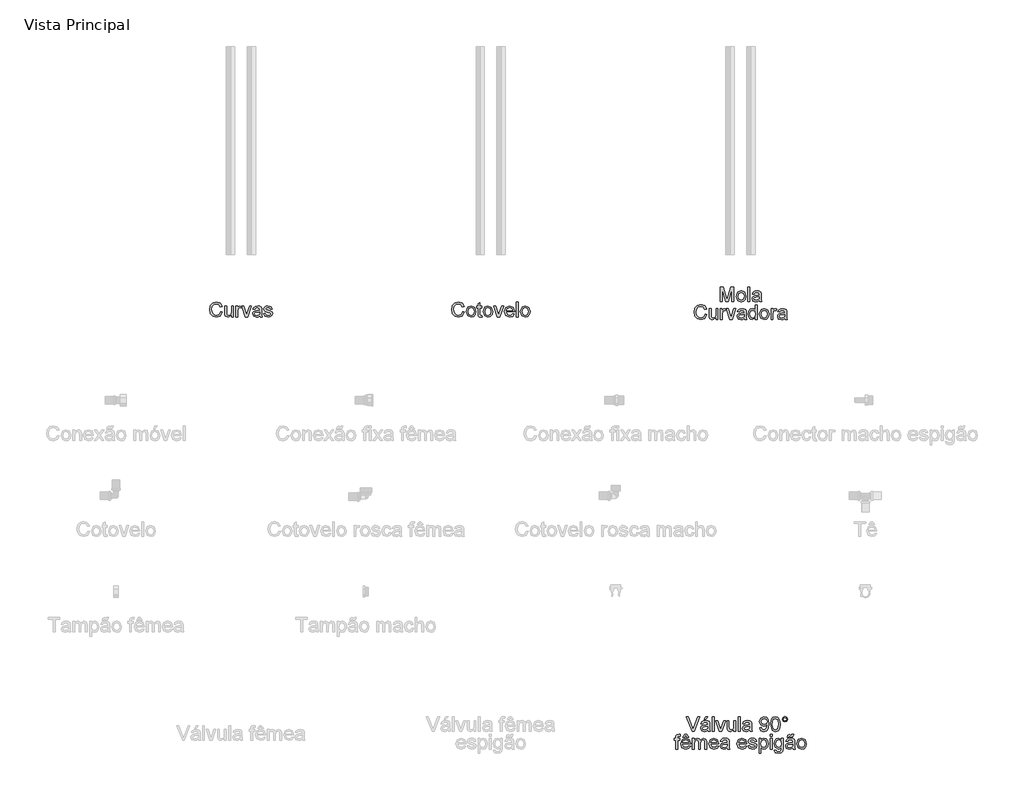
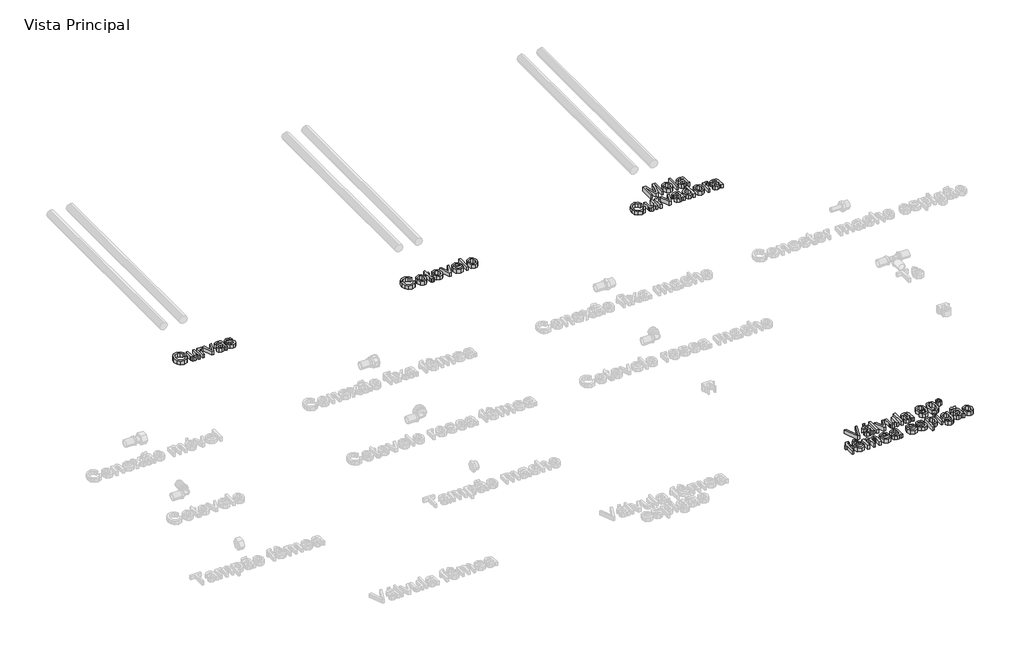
# One storey, part 5 of 5: 4 proxies.
"""IFC4 building model written with IfcOpenShell, lengths in millimetres."""

from ifc_helpers import new_model, si_unit, origin, origin_with_axes, place, context, project, spatial, polyline, outline, extrude, element, save

model = new_model("IFC4")

# Units and contexts
model_context = context("Model", 3, world=origin())
ifc_project = project(units=[si_unit("LENGTHUNIT", "METRE", prefix="MILLI")], contexts=[model_context])

# Site, building, storey
site = spatial("IfcSite", under=ifc_project)
building = spatial("IfcBuilding", under=site)
storey = spatial("IfcBuildingStorey", under=building, Name="Vista Principal", Elevation=0.0)

# Proxies
placement = place(None, origin())
element("IfcBuildingElementProxy", 1, Name="Título", ObjectType="Título", at=placement, inside=storey, context=model_context, shape_type="SweptSolid", body=[
    extrude(outline(polyline([(-840.5420215, 176.5290099), (-836.147058, 175.3959334), (-841.3574933, 166.533043), (-850.5594483, 163.4814618), (-859.7056078, 165.7905345), (-865.0705536, 172.4774029), (-866.911803, 181.8767878), (-864.830204, 191.4306832), (-858.9115958, 197.6239766), (-850.4650252, 199.7399112), (-841.6622222, 197.0016429), (-836.6964284, 189.2932889), (-841.091392, 188.2460514), (-844.6966355, 193.6496248), (-850.6367035, 195.3449477), (-857.512418, 193.4650707), (-861.3966387, 188.4177297), (-862.5168394, 181.8853717), (-861.1906248, 174.3143603), (-857.0617625, 169.4773252), (-850.9972279, 167.8764254), (-844.2717318, 170.0567393), (-840.5420215, 176.5290099)])), origin_with_axes(), (0.0, 0.0, 1.0), 10.0),
    extrude(outline(polyline([(-814.1722401, 164.0308322), (-814.1722401, 168.4687154), (-822.1037759, 163.4814618), (-826.2369302, 164.3570209), (-829.0867894, 166.5545027), (-830.3958361, 169.790638), (-830.6533535, 173.8765807), (-830.6533535, 189.8512432), (-826.2583899, 189.8512432), (-826.2583899, 175.9453038), (-825.9922886, 171.4645011), (-824.2540462, 168.8335317), (-820.9792833, 167.8764254), (-817.3096604, 168.8549915), (-814.8847049, 171.5202965), (-814.1722401, 176.417419), (-814.1722401, 189.8512432), (-809.7772766, 189.8512432), (-809.7772766, 164.0308322), (-814.1722401, 164.0308322)])), origin_with_axes(), (0.0, 0.0, 1.0), 10.0),
    extrude(outline(polyline([(-803.7342017, 164.0308322), (-803.7342017, 189.8512432), (-799.8886085, 189.8512432), (-799.8886085, 186.0314018), (-797.1589241, 189.5508063), (-794.4120719, 190.4006137), (-789.9999405, 189.0443554), (-791.4677897, 185.1043392), (-794.5579984, 186.0056501), (-797.0430413, 185.1386749), (-798.6267733, 182.7351792), (-799.3392381, 177.601999), (-799.3392381, 164.0308322), (-803.7342017, 164.0308322)])), origin_with_axes(), (0.0, 0.0, 1.0), 10.0),
    extrude(outline(polyline([(-780.9181603, 164.0308322), (-789.9999405, 189.8512432), (-785.3474595, 189.8512432), (-779.8451712, 174.3830316), (-778.1884759, 169.1811802), (-776.5661163, 174.0911785), (-771.0294923, 189.8512432), (-766.3770113, 189.8512432), (-775.3472006, 164.0308322), (-780.9181603, 164.0308322)])), origin_with_axes(), (0.0, 0.0, 1.0), 10.0),
    extrude(outline(polyline([(-746.0503048, 167.3270549), (-750.3122177, 164.348437), (-755.0204941, 163.4814618), (-761.4026336, 165.5673527), (-763.6301591, 170.8979628), (-762.7889356, 174.3744477), (-760.5785779, 176.8981182), (-757.501245, 178.3402156), (-753.6985715, 179.0011769), (-746.0760566, 180.5119456), (-747.2606366, 184.7352309), (-752.1191315, 186.0056501), (-756.5655985, 185.1601346), (-758.6858251, 182.160057), (-763.0807886, 182.7094274), (-761.1794519, 187.001384), (-757.3510266, 189.5164706), (-751.5525932, 190.4006137), (-746.226275, 189.6194776), (-743.2176135, 187.6580534), (-741.8699391, 184.6751435), (-741.6553412, 180.8295504), (-741.6553412, 175.3615977), (-741.4321595, 167.7262069), (-740.5566004, 164.0308322), (-744.9515639, 164.0308322), (-746.0503048, 167.3270549)]), holes=[polyline([(-746.0631807, 175.4946484), (-753.1406171, 174.7693077), (-756.9218309, 174.0568429), (-758.6343216, 172.8980146), (-759.2351955, 171.2069837), (-757.9261488, 168.8292397), (-754.0848476, 167.8764254), (-749.6383805, 168.9279547), (-746.7713535, 171.473085), (-746.0631807, 175.4946484)])]), origin_with_axes(), (0.0, 0.0, 1.0), 10.0),
    extrude(outline(polyline([(-737.2603777, 171.7220185), (-732.8654141, 172.2713889), (-730.8310267, 169.0095019), (-726.1699618, 167.8764254), (-721.6891591, 168.9150789), (-720.2298938, 171.3529102), (-721.697743, 173.3272103), (-726.2214653, 174.5804616), (-732.8396624, 176.7307319), (-735.7281492, 179.2415265), (-736.7110072, 182.7866826), (-735.9212872, 186.0614455), (-733.766725, 188.5636562), (-730.9726612, 189.8641191), (-727.1914475, 190.4006137), (-721.8436695, 189.5379304), (-718.4444399, 187.203106), (-716.9336712, 183.2587979), (-721.3286347, 182.7094274), (-722.981038, 185.1343829), (-726.8480909, 186.0056501), (-731.0542084, 185.1730105), (-732.3160437, 183.2330461), (-730.1528975, 180.9840609), (-726.3673918, 180.0484143), (-719.916581, 177.9796912), (-716.9207953, 175.6362829), (-715.8349303, 171.8164415), (-717.1096414, 167.6103241), (-720.7878482, 164.5587429), (-726.2300492, 163.4814618), (-733.8954837, 165.5587688), (-737.2603777, 171.7220185)])), origin_with_axes(), (0.0, 0.0, 1.0), 10.0),
])
element("IfcBuildingElementProxy", 2, Name="Título", ObjectType="Título", at=placement, inside=storey, context=model_context, shape_type="SweptSolid", body=[
    extrude(outline(polyline([(-259.2206167, 176.5290099), (-254.8256531, 175.3959334), (-260.0360885, 166.533043), (-269.2380434, 163.4814618), (-278.384203, 165.7905345), (-283.7491487, 172.4774029), (-285.5903981, 181.8767878), (-283.5087992, 191.4306832), (-277.590191, 197.6239766), (-269.1436204, 199.7399112), (-260.3408174, 197.0016429), (-255.3750236, 189.2932889), (-259.7699872, 188.2460514), (-263.3752307, 193.6496248), (-269.3152987, 195.3449477), (-276.1910132, 193.4650707), (-280.0752339, 188.4177297), (-281.1954346, 181.8853717), (-279.86922, 174.3143603), (-275.7403577, 169.4773252), (-269.675823, 167.8764254), (-262.950327, 170.0567393), (-259.2206167, 176.5290099)])), origin_with_axes(), (0.0, 0.0, 1.0), 10.0),
    extrude(outline(polyline([(-250.4306896, 176.9410377), (-246.628016, 187.5421706), (-238.8853263, 190.4006137), (-230.5803903, 186.9198368), (-227.3571308, 177.3015621), (-228.7820604, 169.4816171), (-232.9323825, 165.0566099), (-238.8853263, 163.4814618), (-247.2417658, 166.9493627), (-250.4306896, 176.9410377)]), holes=[polyline([(-246.035726, 176.9496216), (-244.0013386, 170.1382865), (-238.8853263, 167.8764254), (-233.7864818, 170.1511624), (-231.7520944, 177.0869643), (-233.7993577, 183.743789), (-238.8853263, 186.0056501), (-244.0013386, 183.7523729), (-246.035726, 176.9496216)])]), origin_with_axes(), (0.0, 0.0, 1.0), 10.0),
    extrude(outline(polyline([(-213.0734992, 167.6961632), (-212.5241288, 163.9020735), (-215.8117676, 163.4814618), (-219.4942663, 164.2110944), (-221.3312238, 166.1253071), (-221.8634264, 171.1125607), (-221.8634264, 185.4562796), (-225.1596491, 185.4562796), (-225.1596491, 189.8512432), (-221.8634264, 189.8512432), (-221.8634264, 196.1260838), (-217.4684628, 198.7098417), (-217.4684628, 189.8512432), (-213.0734992, 189.8512432), (-213.0734992, 185.4562796), (-217.4684628, 185.4562796), (-217.4684628, 171.2413194), (-217.2366972, 168.9751663), (-213.0734992, 167.6961632)])), origin_with_axes(), (0.0, 0.0, 1.0), 10.0),
    extrude(outline(polyline([(-209.7772766, 176.9410377), (-205.974603, 187.5421706), (-198.2319133, 190.4006137), (-189.9269772, 186.9198368), (-186.7037178, 177.3015621), (-188.1286474, 169.4816171), (-192.2789695, 165.0566099), (-198.2319133, 163.4814618), (-206.5883528, 166.9493627), (-209.7772766, 176.9410377)]), holes=[polyline([(-205.382313, 176.9496216), (-203.3479256, 170.1382865), (-198.2319133, 167.8764254), (-193.1330688, 170.1511624), (-191.0986814, 177.0869643), (-193.1459447, 183.743789), (-198.2319133, 186.0056501), (-203.3479256, 183.7523729), (-205.382313, 176.9496216)])]), origin_with_axes(), (0.0, 0.0, 1.0), 10.0),
    extrude(outline(polyline([(-175.4244559, 164.0308322), (-184.506236, 189.8512432), (-179.8537551, 189.8512432), (-174.3514667, 174.3830316), (-172.6947715, 169.1811802), (-171.0724119, 174.0911785), (-165.5357878, 189.8512432), (-160.8833069, 189.8512432), (-169.8534962, 164.0308322), (-175.4244559, 164.0308322)])), origin_with_axes(), (0.0, 0.0, 1.0), 10.0),
    extrude(outline(polyline([(-138.9599925, 171.7220185), (-134.6508681, 171.172648), (-138.6810153, 165.4986814), (-146.1876474, 163.4814618), (-155.3123472, 166.9622386), (-158.6858251, 176.7264399), (-155.2780115, 186.8125379), (-146.4365809, 190.4006137), (-137.8483757, 186.8211218), (-134.5135254, 176.7521916), (-154.2908615, 175.5676116), (-151.7628991, 169.8593093), (-146.1018083, 167.8764254), (-141.7926839, 168.7949041), (-138.9599925, 171.7220185)]), holes=[polyline([(-154.2908615, 179.9625752), (-138.908489, 179.9625752), (-140.6681912, 183.9455109), (-146.4537487, 186.0056501), (-151.865906, 184.3618307), (-154.2908615, 179.9625752)])]), origin_with_axes(), (0.0, 0.0, 1.0), 10.0),
    extrude(outline(polyline([(-130.1185619, 164.0308322), (-130.1185619, 199.1905408), (-125.7235983, 199.1905408), (-125.7235983, 164.0308322), (-130.1185619, 164.0308322)])), origin_with_axes(), (0.0, 0.0, 1.0), 10.0),
    extrude(outline(polyline([(-120.2298938, 176.9410377), (-116.4272203, 187.5421706), (-108.6845306, 190.4006137), (-100.3795945, 186.9198368), (-97.1563351, 177.3015621), (-98.5812647, 169.4816171), (-102.7315867, 165.0566099), (-108.6845306, 163.4814618), (-117.0409701, 166.9493627), (-120.2298938, 176.9410377)]), holes=[polyline([(-115.8349303, 176.9496216), (-113.8005428, 170.1382865), (-108.6845306, 167.8764254), (-103.5856861, 170.1511624), (-101.5512987, 177.0869643), (-103.598562, 183.743789), (-108.6845306, 186.0056501), (-113.8005428, 183.7523729), (-115.8349303, 176.9496216)])]), origin_with_axes(), (0.0, 0.0, 1.0), 10.0),
])
element("IfcBuildingElementProxy", 3, Name="Título", ObjectType="Título", at=placement, inside=storey, context=model_context, shape_type="SweptSolid", body=[
    extrude(outline(polyline([(359.7326637, 200.6232776), (359.7326637, 235.7829862), (367.2950912, 235.7829862), (374.4884105, 211.0012287), (375.9390918, 205.825129), (377.509948, 211.4304243), (384.5830924, 235.7829862), (392.14552, 235.7829862), (392.14552, 200.6232776), (387.7505564, 200.6232776), (387.7505564, 231.3880226), (378.9177097, 200.6232776), (372.9604739, 200.6232776), (364.1276272, 231.3880226), (364.1276272, 200.6232776), (359.7326637, 200.6232776)])), origin_with_axes(), (0.0, 0.0, 1.0), 10.0),
    extrude(outline(polyline([(398.1885949, 213.5334831), (401.9912685, 224.1346159), (409.7339582, 226.993059), (418.0388942, 223.5122822), (421.2621536, 213.8940074), (419.837224, 206.0740625), (415.686902, 201.6490552), (409.7339582, 200.0739072), (401.3775187, 203.5418081), (398.1885949, 213.5334831)]), holes=[polyline([(402.5835585, 213.542067), (404.6179459, 206.7307319), (409.7339582, 204.4688707), (414.8328026, 206.7436077), (416.8671901, 213.6794096), (414.8199268, 220.3362343), (409.7339582, 222.5980954), (404.6179459, 220.3448182), (402.5835585, 213.542067)])]), origin_with_axes(), (0.0, 0.0, 1.0), 10.0),
    extrude(outline(polyline([(426.2064877, 200.6232776), (426.2064877, 235.7829862), (430.6014512, 235.7829862), (430.6014512, 200.6232776), (426.2064877, 200.6232776)])), origin_with_axes(), (0.0, 0.0, 1.0), 10.0),
    extrude(outline(polyline([(453.67501, 203.9195003), (449.413097, 200.9408824), (444.7048206, 200.0739072), (438.3226812, 202.1597981), (436.0951557, 207.4904082), (436.9363792, 210.966893), (439.1467368, 213.4905635), (442.2240697, 214.9326609), (446.0267433, 215.5936223), (453.6492582, 217.104391), (452.4646782, 221.3276763), (447.6061833, 222.5980954), (443.1597163, 221.75258), (441.0394897, 218.7525023), (436.6445261, 219.3018728), (438.5458629, 223.5938294), (442.3742882, 226.108916), (448.1727216, 226.993059), (453.4990397, 226.2119229), (456.5077013, 224.2504987), (457.8553757, 221.2675889), (458.0699735, 217.4219958), (458.0699735, 211.9540431), (458.2931553, 204.3186522), (459.1687144, 200.6232776), (454.7737509, 200.6232776), (453.67501, 203.9195003)]), holes=[polyline([(453.6621341, 212.0870937), (446.5846976, 211.361753), (442.8034839, 210.6492882), (441.0909932, 209.49046), (440.4901193, 207.7994291), (441.799166, 205.4216851), (445.6404672, 204.4688707), (450.0869342, 205.5204001), (452.9539613, 208.0655304), (453.6621341, 212.0870937)])]), origin_with_axes(), (0.0, 0.0, 1.0), 10.0),
    extrude(outline(polyline([(323.199529, 170.430269), (327.5944926, 169.2971925), (322.3840573, 160.4343021), (313.1821023, 157.3827209), (304.0359427, 159.6917936), (298.670997, 166.378662), (296.8297476, 175.7780469), (298.9113465, 185.3319424), (304.8299547, 191.5252357), (313.2765253, 193.6411704), (322.0793283, 190.902902), (327.0451221, 183.194548), (322.6501586, 182.1473106), (319.044915, 187.5508839), (313.1048471, 189.2462068), (306.2291326, 187.3663298), (302.3449118, 182.3189888), (301.2247112, 175.7866309), (302.5509258, 168.2156194), (306.679788, 163.3785843), (312.7443227, 161.7776845), (319.4698187, 163.9579984), (323.199529, 170.430269)])), origin_with_axes(), (0.0, 0.0, 1.0), 10.0),
    extrude(outline(polyline([(349.5693104, 157.9320914), (349.5693104, 162.3699745), (341.6377746, 157.3827209), (337.5046204, 158.2582801), (334.6547612, 160.4557618), (333.3457144, 163.6918971), (333.088197, 167.7778398), (333.088197, 183.7525023), (337.4831606, 183.7525023), (337.4831606, 169.8465629), (337.7492619, 165.3657602), (339.4875043, 162.7347908), (342.7622672, 161.7776845), (346.4318901, 162.7562506), (348.8568456, 165.4215556), (349.5693104, 170.3186781), (349.5693104, 183.7525023), (353.964274, 183.7525023), (353.964274, 157.9320914), (349.5693104, 157.9320914)])), origin_with_axes(), (0.0, 0.0, 1.0), 10.0),
    extrude(outline(polyline([(360.0073489, 157.9320914), (360.0073489, 183.7525023), (363.852942, 183.7525023), (363.852942, 179.9326609), (366.5826264, 183.4520654), (369.3294787, 184.3018728), (373.7416101, 182.9456145), (372.2737609, 179.0055983), (369.1835521, 179.9069092), (366.6985093, 179.039934), (365.1147773, 176.6364383), (364.4023125, 171.5032582), (364.4023125, 157.9320914), (360.0073489, 157.9320914)])), origin_with_axes(), (0.0, 0.0, 1.0), 10.0),
    extrude(outline(polyline([(382.8233902, 157.9320914), (373.7416101, 183.7525023), (378.394091, 183.7525023), (383.8963794, 168.2842907), (385.5530746, 163.0824393), (387.1754342, 167.9924376), (392.7120583, 183.7525023), (397.3645392, 183.7525023), (388.3943499, 157.9320914), (382.8233902, 157.9320914)])), origin_with_axes(), (0.0, 0.0, 1.0), 10.0),
    extrude(outline(polyline([(417.6912457, 161.228314), (413.4293328, 158.2496961), (408.7210564, 157.3827209), (402.3389169, 159.4686118), (400.1113915, 164.7992219), (400.952615, 168.2757068), (403.1629726, 170.7993773), (406.2403055, 172.2414747), (410.0429791, 172.902436), (417.665494, 174.4132047), (416.480914, 178.63649), (411.6224191, 179.9069092), (407.175952, 179.0613937), (405.0557255, 176.0613161), (400.6607619, 176.6106865), (402.5620987, 180.9026431), (406.390524, 183.4177297), (412.1889574, 184.3018728), (417.5152755, 183.5207367), (420.5239371, 181.5593125), (421.8716115, 178.5764027), (422.0862093, 174.7308095), (422.0862093, 169.2628568), (422.3093911, 161.627466), (423.1849502, 157.9320914), (418.7899866, 157.9320914), (417.6912457, 161.228314)]), holes=[polyline([(417.6783699, 169.3959075), (410.6009334, 168.6705668), (406.8197196, 167.958102), (405.107229, 166.7992737), (404.506355, 165.1082428), (405.8154018, 162.7304988), (409.656703, 161.7776845), (414.10317, 162.8292138), (416.970197, 165.3743441), (417.6783699, 169.3959075)])]), origin_with_axes(), (0.0, 0.0, 1.0), 10.0),
    extrude(outline(polyline([(444.0610272, 157.9320914), (444.0610272, 162.0781214), (437.1338092, 157.3827209), (431.6916082, 159.0823357), (427.8460151, 163.8249478), (426.4811729, 170.8165451), (427.7387162, 177.8124344), (431.5070541, 182.6280097), (437.1166414, 184.3018728), (441.1682484, 183.1044169), (444.0610272, 179.9927483), (444.0610272, 193.0917999), (448.4559907, 193.0917999), (448.4559907, 157.9320914), (444.0610272, 157.9320914)]), holes=[polyline([(430.8761364, 170.8337129), (432.8590204, 164.0309617), (437.5372531, 161.7776845), (442.1596904, 163.9279547), (444.0610272, 170.4989403), (442.1253547, 177.6321722), (437.3569909, 179.9069092), (432.7302617, 177.7223033), (430.8761364, 170.8337129)])]), origin_with_axes(), (0.0, 0.0, 1.0), 10.0),
    extrude(outline(polyline([(453.9496952, 170.8422968), (457.7523687, 181.4434297), (465.4950585, 184.3018728), (473.7999945, 180.821096), (477.0232539, 171.2028212), (475.5983243, 163.3828762), (471.4480023, 158.957869), (465.4950585, 157.3827209), (457.1386189, 160.8506218), (453.9496952, 170.8422968)]), holes=[polyline([(458.3446588, 170.8508808), (460.3790462, 164.0395456), (465.4950585, 161.7776845), (470.5939029, 164.0524215), (472.6282904, 170.9882234), (470.5810271, 177.6450481), (465.4950585, 179.9069092), (460.3790462, 177.653632), (458.3446588, 170.8508808)])]), origin_with_axes(), (0.0, 0.0, 1.0), 10.0),
    extrude(outline(polyline([(481.9675879, 157.9320914), (481.9675879, 183.7525023), (485.8131811, 183.7525023), (485.8131811, 179.9326609), (488.5428655, 183.4520654), (491.2897177, 184.3018728), (495.7018491, 182.9456145), (494.2339999, 179.0055983), (491.1437912, 179.9069092), (488.6587483, 179.039934), (487.0750163, 176.6364383), (486.3625515, 171.5032582), (486.3625515, 157.9320914), (481.9675879, 157.9320914)])), origin_with_axes(), (0.0, 0.0, 1.0), 10.0),
    extrude(outline(polyline([(514.9298147, 161.228314), (510.6679018, 158.2496961), (505.9596254, 157.3827209), (499.5774859, 159.4686118), (497.3499604, 164.7992219), (498.1911839, 168.2757068), (500.4015416, 170.7993773), (503.4788745, 172.2414747), (507.281548, 172.902436), (514.904063, 174.4132047), (513.7194829, 178.63649), (508.8609881, 179.9069092), (504.414521, 179.0613937), (502.2942944, 176.0613161), (497.8993309, 176.6106865), (499.8006677, 180.9026431), (503.629093, 183.4177297), (509.4275263, 184.3018728), (514.7538445, 183.5207367), (517.7625061, 181.5593125), (519.1101804, 178.5764027), (519.3247783, 174.7308095), (519.3247783, 169.2628568), (519.54796, 161.627466), (520.4235192, 157.9320914), (516.0285556, 157.9320914), (514.9298147, 161.228314)]), holes=[polyline([(514.9169388, 169.3959075), (507.8395024, 168.6705668), (504.0582886, 167.958102), (502.3457979, 166.7992737), (501.744924, 165.1082428), (503.0539708, 162.7304988), (506.8952719, 161.7776845), (511.341739, 162.8292138), (514.208766, 165.3743441), (514.9169388, 169.3959075)])]), origin_with_axes(), (0.0, 0.0, 1.0), 10.0),
])
element("IfcBuildingElementProxy", 4, Name="Texto", ObjectType="Texto", at=placement, inside=storey, context=model_context, shape_type="SweptSolid", body=[
    extrude(outline(polyline([(292.1085953, -832.1235746), (278.1168168, -796.9638661), (282.8208012, -796.9638661), (292.1858505, -822.294994), (294.0828954, -828.0032963), (295.9541884, -822.294994), (305.3449895, -796.9638661), (310.048974, -796.9638661), (296.6494854, -832.1235746), (292.1085953, -832.1235746)])), origin_with_axes(), (0.0, 0.0, 1.0), 10.0),
    extrude(outline(polyline([(330.0666596, -828.827352), (325.8047467, -831.8059698), (321.0964703, -832.6729451), (314.7143308, -830.5870542), (312.4868053, -825.2564441), (313.3280288, -821.7799592), (315.5383865, -819.2562887), (318.6157193, -817.8141913), (322.4183929, -817.15323), (330.0409078, -815.6424612), (328.8563278, -811.4191759), (323.9978329, -810.1487568), (319.5513659, -810.9942722), (317.4311393, -813.9943499), (313.0361758, -813.4449795), (314.9375125, -809.1530229), (318.7659378, -806.6379363), (324.5643712, -805.7537932), (329.8906894, -806.5349293), (332.8993509, -808.4963535), (334.2470253, -811.4792633), (334.4616232, -815.3248565), (334.4616232, -820.7928092), (334.6848049, -828.4282), (335.560364, -832.1235746), (331.1654005, -832.1235746), (330.0666596, -828.827352)]), holes=[polyline([(330.0537837, -820.6597585), (322.9763473, -821.3850992), (319.1951335, -822.097564), (317.4826428, -823.2563923), (316.8817689, -824.9474232), (318.1908156, -827.3251671), (322.0321168, -828.2779815), (326.4785839, -827.2264521), (329.3456109, -824.6813219), (330.0537837, -820.6597585)])]), origin_with_axes(), (0.0, 0.0, 1.0), 10.0),
    extrude(outline(polyline([(321.2767324, -803.5563114), (324.5729551, -796.9638661), (330.0666596, -796.9638661), (324.5729551, -803.5563114), (321.2767324, -803.5563114)])), origin_with_axes(), (0.0, 0.0, 1.0), 10.0),
    extrude(outline(polyline([(340.5046981, -832.1235746), (340.5046981, -796.9638661), (344.8996616, -796.9638661), (344.8996616, -832.1235746), (340.5046981, -832.1235746)])), origin_with_axes(), (0.0, 0.0, 1.0), 10.0),
    extrude(outline(polyline([(357.8270349, -832.1235746), (348.7452548, -806.3031637), (353.3977357, -806.3031637), (358.9000241, -821.7713753), (360.5567193, -826.9732267), (362.1790789, -822.0632283), (367.715703, -806.3031637), (372.3681839, -806.3031637), (363.3979946, -832.1235746), (357.8270349, -832.1235746)])), origin_with_axes(), (0.0, 0.0, 1.0), 10.0),
    extrude(outline(polyline([(392.6948904, -832.1235746), (392.6948904, -827.6856915), (384.7633546, -832.6729451), (380.6302004, -831.7973859), (377.7803412, -829.5999041), (376.4712945, -826.3637689), (376.2137771, -822.2778262), (376.2137771, -806.3031637), (380.6087406, -806.3031637), (380.6087406, -820.2091031), (380.8748419, -824.6899058), (382.6130844, -827.3208752), (385.8878473, -828.2779815), (389.5574702, -827.2994154), (391.9824256, -824.6341103), (392.6948904, -819.7369879), (392.6948904, -806.3031637), (397.089854, -806.3031637), (397.089854, -832.1235746), (392.6948904, -832.1235746)])), origin_with_axes(), (0.0, 0.0, 1.0), 10.0),
    extrude(outline(polyline([(403.1329289, -832.1235746), (403.1329289, -796.9638661), (407.5278925, -796.9638661), (407.5278925, -832.1235746), (403.1329289, -832.1235746)])), origin_with_axes(), (0.0, 0.0, 1.0), 10.0),
    extrude(outline(polyline([(430.6014512, -828.827352), (426.3395383, -831.8059698), (421.6312619, -832.6729451), (415.2491224, -830.5870542), (413.021597, -825.2564441), (413.8628204, -821.7799592), (416.0731781, -819.2562887), (419.150511, -817.8141913), (422.9531845, -817.15323), (430.5756995, -815.6424612), (429.3911195, -811.4191759), (424.5326246, -810.1487568), (420.0861575, -810.9942722), (417.965931, -813.9943499), (413.5709674, -813.4449795), (415.4723042, -809.1530229), (419.3007295, -806.6379363), (425.0991629, -805.7537932), (430.425481, -806.5349293), (433.4341426, -808.4963535), (434.781817, -811.4792633), (434.9964148, -815.3248565), (434.9964148, -820.7928092), (435.2195965, -828.4282), (436.0951557, -832.1235746), (431.7001921, -832.1235746), (430.6014512, -828.827352)]), holes=[polyline([(430.5885754, -820.6597585), (423.5111389, -821.3850992), (419.7299251, -822.097564), (418.0174344, -823.2563923), (417.4165605, -824.9474232), (418.7256073, -827.3251671), (422.5669085, -828.2779815), (427.0133755, -827.2264521), (429.8804025, -824.6813219), (430.5885754, -820.6597585)])]), origin_with_axes(), (0.0, 0.0, 1.0), 10.0),
    extrude(outline(polyline([(454.2243804, -823.3336475), (458.619344, -822.784277), (460.593644, -826.9775187), (464.3362302, -828.2779815), (467.8942622, -827.44105), (470.3063418, -825.2049406), (471.7441473, -821.3850992), (472.3793569, -816.2862547), (468.8384927, -818.7584217), (464.0186254, -820.0374248), (456.6750876, -816.9128804), (453.67501, -808.6809076), (456.8210142, -800.1828335), (464.7053385, -796.9638661), (470.9673031, -798.8008235), (475.2764276, -804.0370106), (476.7485687, -813.8741751), (475.2807195, -824.5482712), (470.9157997, -830.5956381), (464.1302163, -832.6729451), (457.3746766, -830.2222379), (454.2243804, -823.3336475)]), holes=[polyline([(472.3536051, -808.5779007), (470.4565603, -803.3073779), (465.4178033, -801.3588296), (460.1301127, -803.4575964), (458.0699735, -808.8955055), (460.0185218, -813.7668762), (465.2976285, -815.6424612), (470.3664292, -813.7668762), (472.3536051, -808.5779007)])]), origin_with_axes(), (0.0, 0.0, 1.0), 10.0),
    extrude(outline(polyline([(480.5941618, -814.8269895), (481.8860408, -804.7108478), (485.72305, -798.8780787), (492.1309412, -796.9638661), (497.2641213, -798.0969426), (500.8092775, -801.3631216), (502.8694166, -806.564973), (503.6677206, -814.8269895), (502.3887175, -824.9002117), (498.5645842, -830.7458566), (492.1309412, -832.6729451), (484.0963984, -829.3252189), (480.5941618, -814.8269895)]), holes=[polyline([(484.9891254, -814.8184056), (487.0492646, -825.7328512), (492.1309412, -828.2779815), (497.2126178, -825.7242673), (499.272757, -814.8184056), (497.2812891, -804.0284267), (492.0794377, -801.3588296), (487.1179359, -803.7108219), (484.9891254, -814.8184056)])]), origin_with_axes(), (0.0, 0.0, 1.0), 10.0),
    extrude(outline(polyline([(508.6120546, -802.9983571), (510.547727, -798.3372922), (515.195916, -796.4144956), (519.8741487, -798.3372922), (521.7969453, -802.9983571), (519.8612729, -807.6637139), (515.195916, -809.5993863), (510.547727, -807.6765898), (508.6120546, -802.9983571)]), holes=[polyline([(511.3589068, -803.006941), (512.4876914, -805.7280415), (515.2130838, -806.8525341), (517.9213085, -805.7280415), (519.0500931, -803.006941), (517.9213085, -800.2858405), (515.2130838, -799.1613479), (512.4876914, -800.2858405), (511.3589068, -803.006941)])]), origin_with_axes(), (0.0, 0.0, 1.0), 10.0),
    extrude(outline(polyline([(252.8801119, -874.8147609), (252.8801119, -853.3893135), (249.0345188, -853.3893135), (249.0345188, -848.9943499), (252.8801119, -848.9943499), (252.8801119, -846.3934242), (253.3436432, -842.7280933), (255.5926285, -840.1099997), (260.0219277, -839.1056819), (264.0306152, -839.586381), (263.3868217, -843.7066594), (260.8545673, -843.5006454), (258.0862553, -844.2302781), (257.2750755, -846.9513786), (257.2750755, -848.9943499), (262.2194095, -848.9943499), (262.2194095, -853.3893135), (257.2750755, -853.3893135), (257.2750755, -874.8147609), (252.8801119, -874.8147609)])), origin_with_axes(), (0.0, 0.0, 1.0), 10.0),
    extrude(outline(polyline([(276.5030411, -841.8525341), (274.0308741, -846.2474977), (269.6359105, -846.2474977), (274.3055593, -839.6550523), (278.7005229, -839.6550523), (283.9195421, -846.2474977), (279.5245785, -846.2474977), (276.5030411, -841.8525341)])), origin_with_axes(), (0.0, 0.0, 1.0), 10.0),
    extrude(outline(polyline([(284.1427239, -867.1235746), (288.4518483, -867.6729451), (284.421701, -873.3469117), (276.9150689, -875.3641313), (267.7903692, -871.8833545), (264.4168913, -862.1191532), (267.8247048, -852.0330552), (276.6661354, -848.4449795), (285.2543406, -852.0244713), (288.5891909, -862.0934015), (268.8118548, -863.2779815), (271.3398173, -868.9862838), (277.0009081, -870.9691678), (281.3100325, -870.050689), (284.1427239, -867.1235746)]), holes=[polyline([(268.8118548, -858.8830179), (284.1942273, -858.8830179), (282.4345251, -854.9000822), (276.6489676, -852.839943), (271.2368103, -854.4837624), (268.8118548, -858.8830179)])]), origin_with_axes(), (0.0, 0.0, 1.0), 10.0),
    extrude(outline(polyline([(292.9841545, -874.8147609), (292.9841545, -848.9943499), (297.379118, -848.9943499), (297.379118, -853.243387), (300.4006555, -849.7626101), (304.701196, -848.4449795), (309.1047435, -849.7883619), (311.525407, -853.5524078), (319.2852646, -848.4449795), (325.0321945, -850.569498), (327.0451221, -857.1147318), (327.0451221, -874.8147609), (322.6501586, -874.8147609), (322.6501586, -859.0031927), (322.2424227, -855.3335698), (320.7659896, -853.5266561), (318.255195, -852.839943), (313.9331947, -854.5996452), (312.2121201, -860.2392762), (312.2121201, -874.8147609), (307.8171565, -874.8147609), (307.8171565, -858.5139097), (306.7999628, -854.2562887), (303.4651125, -852.839943), (300.2118094, -853.7841735), (298.0486633, -856.5481935), (297.379118, -861.7929645), (297.379118, -874.8147609), (292.9841545, -874.8147609)])), origin_with_axes(), (0.0, 0.0, 1.0), 10.0),
    extrude(outline(polyline([(351.7152887, -867.1235746), (356.0244132, -867.6729451), (351.9942659, -873.3469117), (344.4876338, -875.3641313), (335.362934, -871.8833545), (331.9894561, -862.1191532), (335.3972697, -852.0330552), (344.2387003, -848.4449795), (352.8269055, -852.0244713), (356.1617558, -862.0934015), (336.3844197, -863.2779815), (338.9123822, -868.9862838), (344.5734729, -870.9691678), (348.8825974, -870.050689), (351.7152887, -867.1235746)]), holes=[polyline([(336.3844197, -858.8830179), (351.7667922, -858.8830179), (350.00709, -854.9000822), (344.2215325, -852.839943), (338.8093752, -854.4837624), (336.3844197, -858.8830179)])]), origin_with_axes(), (0.0, 0.0, 1.0), 10.0),
    extrude(outline(polyline([(377.0378327, -871.5185382), (372.7759198, -874.4971561), (368.0676434, -875.3641313), (361.6855039, -873.2782404), (359.4579785, -867.9476303), (360.2992019, -864.4711454), (362.5095596, -861.947475), (365.5868925, -860.5053775), (369.389566, -859.8444162), (377.012081, -858.3336475), (375.827501, -854.1103622), (370.9690061, -852.839943), (366.522539, -853.6854585), (364.4023125, -856.6855362), (360.0073489, -856.1361657), (361.9086857, -851.8442091), (365.737111, -849.3291225), (371.5355444, -848.4449795), (376.8618625, -849.2261156), (379.8705241, -851.1875397), (381.2181985, -854.1704496), (381.4327963, -858.0160427), (381.4327963, -863.4839954), (381.655978, -871.1193862), (382.5315372, -874.8147609), (378.1365736, -874.8147609), (377.0378327, -871.5185382)]), holes=[polyline([(377.0249569, -863.3509448), (369.9475204, -864.0762854), (366.1663066, -864.7887502), (364.4538159, -865.9475785), (363.852942, -867.6386094), (365.1619888, -870.0163534), (369.00329, -870.9691678), (373.449757, -869.9176384), (376.316784, -867.3725081), (377.0249569, -863.3509448)])]), origin_with_axes(), (0.0, 0.0, 1.0), 10.0),
    extrude(outline(polyline([(419.2878536, -867.1235746), (423.596978, -867.6729451), (419.5668308, -873.3469117), (412.0601987, -875.3641313), (402.9354989, -871.8833545), (399.562021, -862.1191532), (402.9698346, -852.0330552), (411.8112652, -848.4449795), (420.3994704, -852.0244713), (423.7343206, -862.0934015), (403.9569846, -863.2779815), (406.484947, -868.9862838), (412.1460378, -870.9691678), (416.4551622, -870.050689), (419.2878536, -867.1235746)]), holes=[polyline([(403.9569846, -858.8830179), (419.3393571, -858.8830179), (417.5796549, -854.9000822), (411.7940974, -852.839943), (406.3819401, -854.4837624), (403.9569846, -858.8830179)])]), origin_with_axes(), (0.0, 0.0, 1.0), 10.0),
    extrude(outline(polyline([(426.4811729, -867.1235746), (430.8761364, -866.5742042), (432.9105239, -869.8360912), (437.5715888, -870.9691678), (442.0523915, -869.9305143), (443.5116567, -867.4926829), (442.0438075, -865.5183829), (437.5200853, -864.2651315), (430.9018882, -862.1148613), (428.0134014, -859.6040666), (427.0305433, -856.0589105), (427.8202633, -852.7841476), (429.9748256, -850.2819369), (432.7688893, -848.981474), (436.5501031, -848.4449795), (441.897881, -849.3076627), (445.2971107, -851.6424871), (446.8078794, -855.5867953), (442.4129158, -856.1361657), (440.7605125, -853.7112102), (436.8934596, -852.839943), (432.6873421, -853.6725826), (431.4255069, -855.612547), (433.588653, -857.8615323), (437.3741588, -858.7971788), (443.8249695, -860.8659019), (446.8207553, -863.2093102), (447.9066203, -867.0291516), (446.6319092, -871.2352691), (442.9537024, -874.2868502), (437.5115014, -875.3641313), (429.8460669, -873.2868243), (426.4811729, -867.1235746)])), origin_with_axes(), (0.0, 0.0, 1.0), 10.0),
    extrude(outline(polyline([(452.8509543, -884.7034289), (452.8509543, -848.9943499), (457.2459179, -848.9943499), (457.2459179, -853.3034743), (460.2846231, -849.6596032), (464.3877337, -848.4449795), (469.9586933, -850.1445943), (473.5982725, -854.9344179), (474.8257721, -861.7071254), (473.4394702, -868.8274814), (469.4136149, -873.6773924), (463.855531, -875.3641313), (460.0313977, -874.2353467), (457.2459179, -871.3811956), (457.2459179, -884.7034289), (452.8509543, -884.7034289)]), holes=[polyline([(457.2459179, -862.1105693), (459.1472546, -868.8060216), (463.761108, -870.9691678), (468.4693844, -868.7287664), (470.4308086, -861.7843806), (468.5165959, -855.0717605), (463.9413702, -852.839943), (459.2760133, -855.213395), (457.2459179, -862.1105693)])]), origin_with_axes(), (0.0, 0.0, 1.0), 10.0),
    extrude(outline(polyline([(479.7701062, -874.8147609), (479.7701062, -848.9943499), (484.1650697, -848.9943499), (484.1650697, -874.8147609), (479.7701062, -874.8147609)])), origin_with_axes(), (0.0, 0.0, 1.0), 10.0),
    extrude(outline(polyline([(479.7701062, -844.0500159), (479.7701062, -839.6550523), (484.1650697, -839.6550523), (484.1650697, -844.0500159), (479.7701062, -844.0500159)])), origin_with_axes(), (0.0, 0.0, 1.0), 10.0),
    extrude(outline(polyline([(489.6587742, -877.0122427), (494.0537378, -877.5616131), (495.4786673, -879.8792697), (499.7448722, -880.8578358), (504.2428427, -879.750511), (506.3888211, -876.6431344), (506.689258, -871.5185382), (499.8221274, -874.8147609), (491.9120514, -870.9777517), (489.1094037, -861.7757967), (490.366947, -854.9644616), (494.0065262, -850.1445943), (499.6075296, -848.4449795), (506.689258, -852.2905726), (506.689258, -848.9943499), (511.0842216, -848.9943499), (511.0842216, -871.2867725), (509.8824737, -879.8234742), (506.0755082, -883.7935341), (499.6590331, -885.2527994), (492.349831, -883.1969521), (489.6587742, -877.0122427)]), holes=[polyline([(493.5043673, -861.4753597), (495.3799523, -868.278111), (500.0882287, -870.4197973), (504.7879212, -868.2909868), (506.689258, -861.6041184), (504.7321258, -855.0503007), (500.0195574, -852.839943), (495.4057041, -855.015965), (493.5043673, -861.4753597)])]), origin_with_axes(), (0.0, 0.0, 1.0), 10.0),
    extrude(outline(polyline([(534.1577803, -871.5185382), (529.8958674, -874.4971561), (525.187591, -875.3641313), (518.8054515, -873.2782404), (516.577926, -867.9476303), (517.4191495, -864.4711454), (519.6295072, -861.947475), (522.7068401, -860.5053775), (526.5095136, -859.8444162), (534.1320286, -858.3336475), (532.9474486, -854.1103622), (528.0889537, -852.839943), (523.6424866, -853.6854585), (521.5222601, -856.6855362), (517.1272965, -856.1361657), (519.0286333, -851.8442091), (522.8570586, -849.3291225), (528.6554919, -848.4449795), (533.9818101, -849.2261156), (536.9904717, -851.1875397), (538.3381461, -854.1704496), (538.5527439, -858.0160427), (538.5527439, -863.4839954), (538.7759256, -871.1193862), (539.6514848, -874.8147609), (535.2565212, -874.8147609), (534.1577803, -871.5185382)]), holes=[polyline([(534.1449045, -863.3509448), (527.067468, -864.0762854), (523.2862542, -864.7887502), (521.5737635, -865.9475785), (520.9728896, -867.6386094), (522.2819364, -870.0163534), (526.1232375, -870.9691678), (530.5697046, -869.9176384), (533.4367316, -867.3725081), (534.1449045, -863.3509448)])]), origin_with_axes(), (0.0, 0.0, 1.0), 10.0),
    extrude(outline(polyline([(520.4235192, -846.2474977), (521.7883614, -841.4490902), (525.2820141, -839.6550523), (528.8014185, -841.071398), (530.5782885, -841.8525341), (531.9602985, -839.6550523), (535.8058917, -839.6550523), (534.4110058, -844.5993863), (531.0418198, -846.2474977), (527.565335, -844.9084072), (525.7112097, -844.0500159), (524.2691123, -846.2474977), (520.4235192, -846.2474977)])), origin_with_axes(), (0.0, 0.0, 1.0), 10.0),
    extrude(outline(polyline([(543.4970779, -861.9045554), (547.2997515, -851.3034226), (555.0424412, -848.4449795), (563.3473772, -851.9257563), (566.5706366, -861.544031), (565.145707, -869.363976), (560.995385, -873.7889832), (555.0424412, -875.3641313), (546.6860017, -871.8962304), (543.4970779, -861.9045554)]), holes=[polyline([(547.8920415, -861.8959715), (549.9264289, -868.7073066), (555.0424412, -870.9691678), (560.1412856, -868.6944307), (562.1756731, -861.7586289), (560.1284098, -855.1018042), (555.0424412, -852.839943), (549.9264289, -855.0932203), (547.8920415, -861.8959715)])]), origin_with_axes(), (0.0, 0.0, 1.0), 10.0),
])

save(model, "model.ifc")
